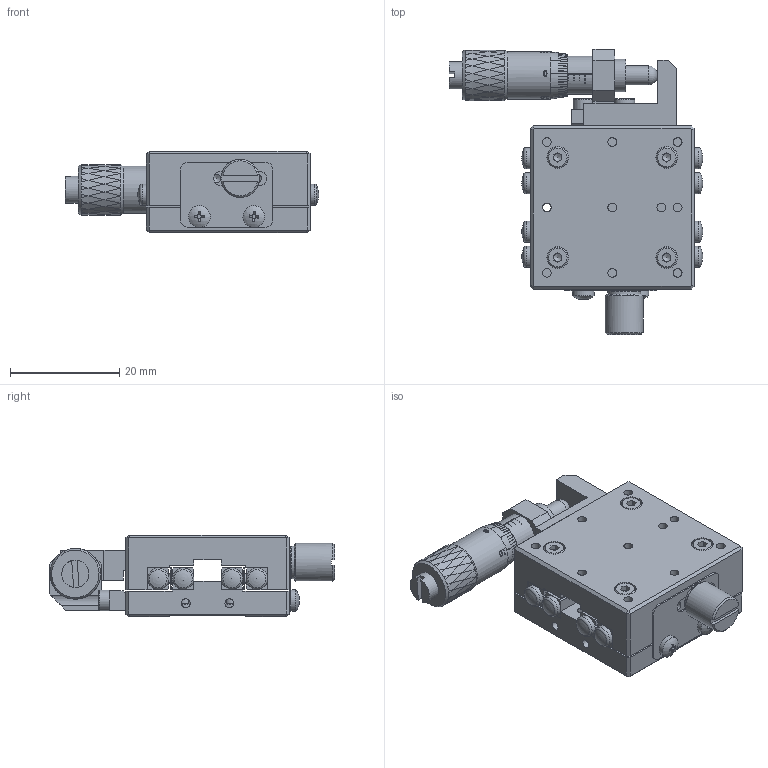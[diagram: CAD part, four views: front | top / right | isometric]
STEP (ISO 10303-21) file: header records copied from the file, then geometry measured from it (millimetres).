
FILE_DESCRIPTION (( 'STEP AP203' ), '1' );
FILE_NAME ('BPTA30.STEP', '2024-07-24T02:18:42', ( 'Windows User' ), ( 'P R C' ), 'SwSTEP 2.0', 'SolidWorks 2024', '' );
FILE_SCHEMA (( 'CONFIG_CONTROL_DESIGN' ));
Length unit declared in the file: millimetre
Products named in the file (1): BPTA30
Bounding box: 46.5 x 52.3 x 15 mm (x, y, z)
Volume: 14362.4 mm3; surface area: 15124.2 mm2
Topology: 31 solids, 31 shells, 1437 faces, 3467 edges, 2208 vertices
Faces by surface type: plane 645, bspline 299, cylinder 279, cone 181, torus 31, sphere 2
Full cylindrical faces by diameter (mm): 1.5 x14, 1.6 x28, 1.65 x12, 2 x17, 2.05 x3, 2.1 x1, 2.2 x4, 2.3 x2, 2.4 x10, 2.9 x4, 3 x12, 3.5 x2, 3.8 x14, 3.9 x8, 4 x14, 5 x6, 6 x3, 7 x3, 8.7 x1
Entity records: 54655 total; most frequent: CARTESIAN_POINT 25485, ORIENTED_EDGE 6160, DIRECTION 4861, EDGE_CURVE 3080, VERTEX_POINT 2123, EDGE_LOOP 2005, AXIS2_PLACEMENT_3D 1814, FACE_OUTER_BOUND 1619
